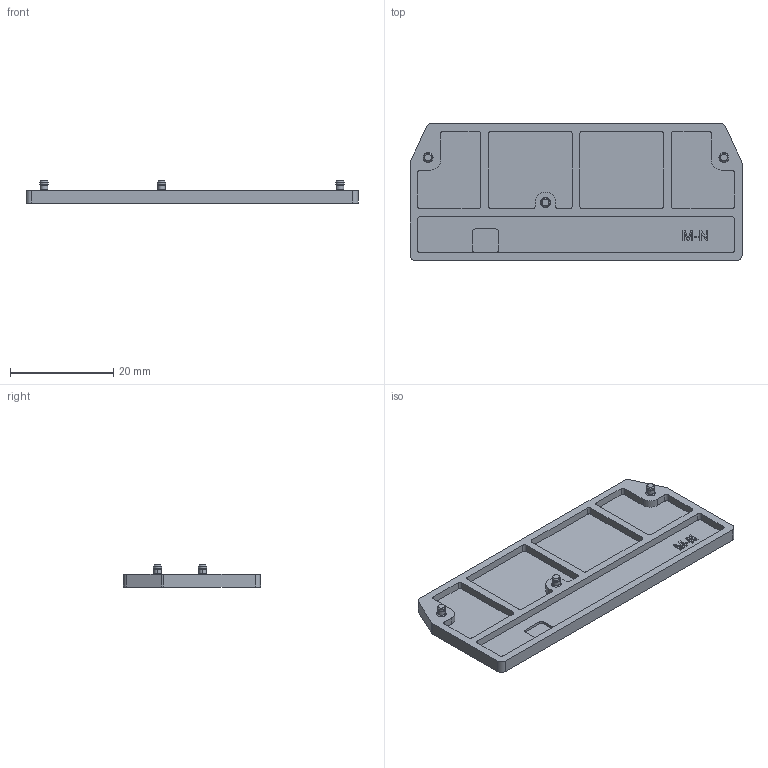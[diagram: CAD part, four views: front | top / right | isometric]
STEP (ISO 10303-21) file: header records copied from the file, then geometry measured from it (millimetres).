
FILE_DESCRIPTION (( 'STEP AP203' ), '1' );
FILE_NAME ('署赅 阎褪.757537.061.STEP', '2019-12-24T13:16:33', ( '' ), ( '' ), 'SwSTEP 2.0', 'SolidWorks 2016', '' );
FILE_SCHEMA (( 'CONFIG_CONTROL_DESIGN' ));
Length unit declared in the file: millimetre
Products named in the file (1): 署赅 阎褪.757537.061
Bounding box: 64.2 x 26.5 x 4.3 mm (x, y, z)
Volume: 2317.8 mm3; surface area: 4427.7 mm2
Topology: 1 solids, 1 shells, 160 faces, 405 edges, 262 vertices
Faces by surface type: plane 85, cylinder 55, cone 18, bspline 2
Entity records: 4944 total; most frequent: CARTESIAN_POINT 910, DIRECTION 841, ORIENTED_EDGE 810, EDGE_CURVE 405, AXIS2_PLACEMENT_3D 281, VECTOR 279, LINE 279, VERTEX_POINT 262
